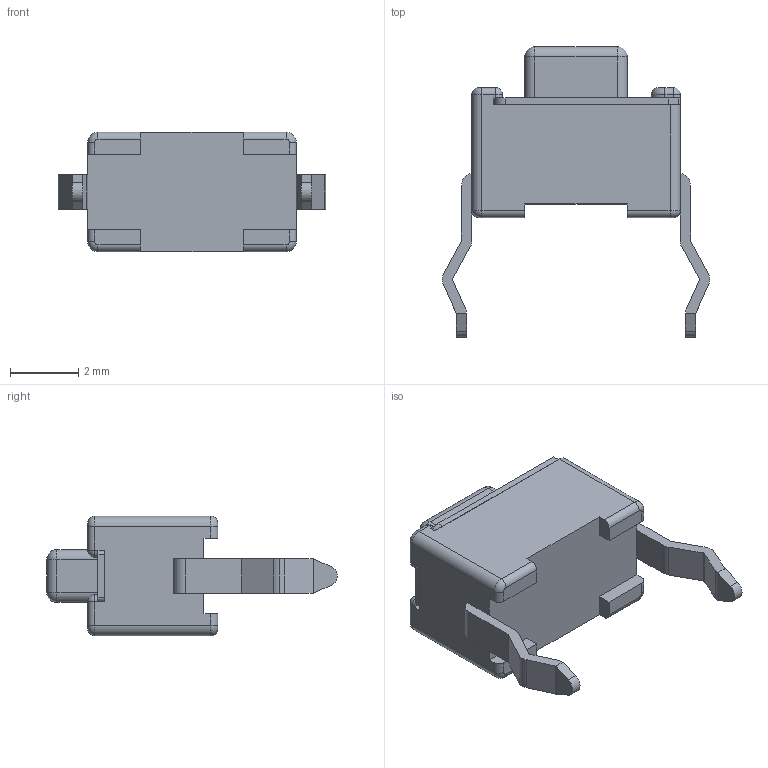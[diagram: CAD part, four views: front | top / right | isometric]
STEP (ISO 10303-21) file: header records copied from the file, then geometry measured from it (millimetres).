
FILE_DESCRIPTION (( 'STEP AP214' ), '1' );
FILE_NAME ('SKHLAB.STEP', '2012-09-27T10:39:22', ( '' ), ( '' ), 'SwSTEP 2.0', 'SolidWorks 2010', '' );
FILE_SCHEMA (( 'AUTOMOTIVE_DESIGN' ));
Length unit declared in the file: millimetre
Products named in the file (1): SKHLAB
Bounding box: 7.82 x 8.5 x 3.5 mm (x, y, z)
Volume: 77.4 mm3; surface area: 156.6 mm2
Topology: 1 solids, 3 shells, 204 faces, 534 edges, 326 vertices
Faces by surface type: plane 104, cylinder 80, sphere 12, torus 8
Entity records: 7048 total; most frequent: DIRECTION 1100, CARTESIAN_POINT 1077, ORIENTED_EDGE 1044, EDGE_CURVE 522, AXIS2_PLACEMENT_3D 381, VECTOR 338, LINE 338, VERTEX_POINT 326
